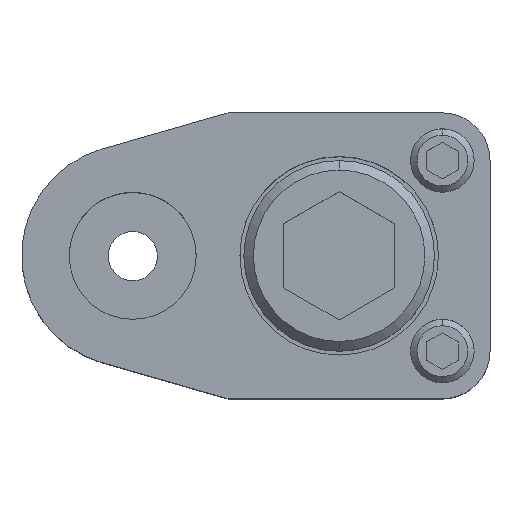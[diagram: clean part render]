
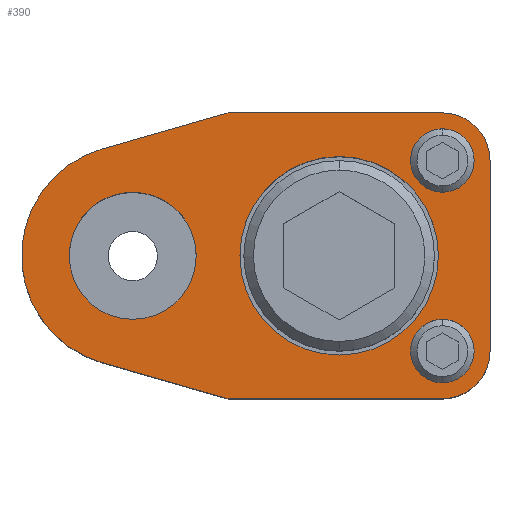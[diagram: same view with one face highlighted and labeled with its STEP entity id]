
A CAD part, top view. The second image highlights one B-rep face of the part: STEP entity #390.
In plain terms, the highlighted planar face has unit normal (0, 0, 1).
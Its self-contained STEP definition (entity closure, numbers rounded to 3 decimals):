
#192=FACE_BOUND('',#693,.T.);
#193=FACE_BOUND('',#694,.T.);
#194=FACE_BOUND('',#695,.T.);
#195=FACE_BOUND('',#696,.T.);
#196=FACE_BOUND('',#697,.T.);
#243=CIRCLE('',#2256,6.);
#246=CIRCLE('',#2262,6.);
#251=CIRCLE('',#2270,12.5);
#253=CIRCLE('',#2273,12.5);
#255=CIRCLE('',#2277,14.);
#256=CIRCLE('',#2278,4.);
#257=CIRCLE('',#2279,4.);
#258=CIRCLE('',#2280,4.);
#259=CIRCLE('',#2281,4.);
#260=CIRCLE('',#2282,8.);
#261=CIRCLE('',#2283,8.);
#390=ADVANCED_FACE('',(#192,#193,#194,#195,#196),#501,.T.);
#501=PLANE('',#2284);
#693=EDGE_LOOP('',(#973,#974,#975,#976,#977,#978,#979,#980));
#694=EDGE_LOOP('',(#981,#982));
#695=EDGE_LOOP('',(#983,#984));
#696=EDGE_LOOP('',(#985,#986));
#697=EDGE_LOOP('',(#987,#988));
#973=ORIENTED_EDGE('',*,*,#1647,.T.);
#974=ORIENTED_EDGE('',*,*,#1651,.T.);
#975=ORIENTED_EDGE('',*,*,#1654,.T.);
#976=ORIENTED_EDGE('',*,*,#1674,.T.);
#977=ORIENTED_EDGE('',*,*,#1675,.T.);
#978=ORIENTED_EDGE('',*,*,#1676,.T.);
#979=ORIENTED_EDGE('',*,*,#1657,.T.);
#980=ORIENTED_EDGE('',*,*,#1661,.T.);
#981=ORIENTED_EDGE('',*,*,#1677,.F.);
#982=ORIENTED_EDGE('',*,*,#1678,.F.);
#983=ORIENTED_EDGE('',*,*,#1679,.F.);
#984=ORIENTED_EDGE('',*,*,#1680,.F.);
#985=ORIENTED_EDGE('',*,*,#1672,.F.);
#986=ORIENTED_EDGE('',*,*,#1668,.F.);
#987=ORIENTED_EDGE('',*,*,#1681,.T.);
#988=ORIENTED_EDGE('',*,*,#1682,.T.);
#1434=VERTEX_POINT('',#3270);
#1435=VERTEX_POINT('',#3272);
#1438=VERTEX_POINT('',#3279);
#1440=VERTEX_POINT('',#3285);
#1442=VERTEX_POINT('',#3291);
#1443=VERTEX_POINT('',#3293);
#1449=VERTEX_POINT('',#3314);
#1450=VERTEX_POINT('',#3315);
#1453=VERTEX_POINT('',#3327);
#1454=VERTEX_POINT('',#3329);
#1455=VERTEX_POINT('',#3332);
#1456=VERTEX_POINT('',#3333);
#1457=VERTEX_POINT('',#3336);
#1458=VERTEX_POINT('',#3337);
#1459=VERTEX_POINT('',#3340);
#1460=VERTEX_POINT('',#3341);
#1647=EDGE_CURVE('',#1435,#1434,#1925,.T.);
#1651=EDGE_CURVE('',#1434,#1438,#243,.T.);
#1654=EDGE_CURVE('',#1438,#1440,#1930,.T.);
#1657=EDGE_CURVE('',#1443,#1442,#1933,.T.);
#1661=EDGE_CURVE('',#1442,#1435,#246,.T.);
#1668=EDGE_CURVE('',#1449,#1450,#251,.T.);
#1672=EDGE_CURVE('',#1450,#1449,#253,.T.);
#1674=EDGE_CURVE('',#1440,#1453,#1940,.T.);
#1675=EDGE_CURVE('',#1453,#1454,#255,.T.);
#1676=EDGE_CURVE('',#1454,#1443,#1941,.T.);
#1677=EDGE_CURVE('',#1455,#1456,#256,.T.);
#1678=EDGE_CURVE('',#1456,#1455,#257,.T.);
#1679=EDGE_CURVE('',#1457,#1458,#258,.T.);
#1680=EDGE_CURVE('',#1458,#1457,#259,.T.);
#1681=EDGE_CURVE('',#1459,#1460,#260,.T.);
#1682=EDGE_CURVE('',#1460,#1459,#261,.T.);
#1925=LINE('',#3271,#2091);
#1930=LINE('',#3286,#2096);
#1933=LINE('',#3292,#2099);
#1940=LINE('',#3326,#2106);
#1941=LINE('',#3330,#2107);
#2091=VECTOR('',#2604,1.);
#2096=VECTOR('',#2617,1.);
#2099=VECTOR('',#2622,1.);
#2106=VECTOR('',#2663,1.);
#2107=VECTOR('',#2666,1.);
#2256=AXIS2_PLACEMENT_3D('',#3280,#2610,#2611);
#2262=AXIS2_PLACEMENT_3D('',#3299,#2629,#2630);
#2270=AXIS2_PLACEMENT_3D('',#3313,#2647,#2648);
#2273=AXIS2_PLACEMENT_3D('',#3322,#2655,#2656);
#2277=AXIS2_PLACEMENT_3D('',#3328,#2664,#2665);
#2278=AXIS2_PLACEMENT_3D('',#3331,#2667,#2668);
#2279=AXIS2_PLACEMENT_3D('',#3334,#2669,#2670);
#2280=AXIS2_PLACEMENT_3D('',#3335,#2671,#2672);
#2281=AXIS2_PLACEMENT_3D('',#3338,#2673,#2674);
#2282=AXIS2_PLACEMENT_3D('',#3339,#2675,#2676);
#2283=AXIS2_PLACEMENT_3D('',#3342,#2677,#2678);
#2284=AXIS2_PLACEMENT_3D('',#3343,#2679,#2680);
#2604=DIRECTION('',(0.,1.,0.));
#2610=DIRECTION('',(0.,0.,1.));
#2611=DIRECTION('',(-0.707,-0.707,0.));
#2617=DIRECTION('',(-1.,0.,0.));
#2622=DIRECTION('',(1.,0.,0.));
#2629=DIRECTION('',(0.,0.,1.));
#2630=DIRECTION('',(-0.707,0.707,0.));
#2647=DIRECTION('',(0.,0.,1.));
#2648=DIRECTION('',(-1.,0.,0.));
#2655=DIRECTION('',(0.,0.,1.));
#2656=DIRECTION('',(1.,0.,0.));
#2663=DIRECTION('',(-0.961,-0.275,0.));
#2664=DIRECTION('',(0.,0.,1.));
#2665=DIRECTION('',(0.,1.,0.));
#2666=DIRECTION('',(0.961,-0.275,0.));
#2667=DIRECTION('',(0.,0.,1.));
#2668=DIRECTION('',(-1.,0.,0.));
#2669=DIRECTION('',(0.,0.,1.));
#2670=DIRECTION('',(1.,0.,0.));
#2671=DIRECTION('',(0.,0.,1.));
#2672=DIRECTION('',(-1.,0.,0.));
#2673=DIRECTION('',(0.,0.,1.));
#2674=DIRECTION('',(1.,0.,0.));
#2675=DIRECTION('',(0.,0.,-1.));
#2676=DIRECTION('',(-1.,0.,0.));
#2677=DIRECTION('',(0.,0.,-1.));
#2678=DIRECTION('',(1.,0.,0.));
#2679=DIRECTION('',(0.,0.,1.));
#2680=DIRECTION('',(0.,-1.,0.));
#3270=CARTESIAN_POINT('',(45.,12.,30.));
#3271=CARTESIAN_POINT('',(45.,-12.,30.));
#3272=CARTESIAN_POINT('',(45.,-12.,30.));
#3279=CARTESIAN_POINT('',(39.,18.,30.));
#3280=CARTESIAN_POINT('',(39.,12.,30.));
#3285=CARTESIAN_POINT('',(12.,18.,30.));
#3286=CARTESIAN_POINT('',(12.,18.,30.));
#3291=CARTESIAN_POINT('',(39.,-18.,30.));
#3292=CARTESIAN_POINT('',(12.,-18.,30.));
#3293=CARTESIAN_POINT('',(12.,-18.,30.));
#3299=CARTESIAN_POINT('',(39.,-12.,30.));
#3313=CARTESIAN_POINT('',(26.,0.,30.));
#3314=CARTESIAN_POINT('',(26.,-12.5,30.));
#3315=CARTESIAN_POINT('',(26.,12.5,30.));
#3322=CARTESIAN_POINT('',(26.,0.,30.));
#3326=CARTESIAN_POINT('',(12.,18.,30.));
#3327=CARTESIAN_POINT('',(-3.855,13.459,30.));
#3328=CARTESIAN_POINT('',(0.,0.,30.));
#3329=CARTESIAN_POINT('',(-3.855,-13.459,30.));
#3330=CARTESIAN_POINT('',(12.,-18.,30.));
#3331=CARTESIAN_POINT('',(39.,-12.,30.));
#3332=CARTESIAN_POINT('',(39.,-16.,30.));
#3333=CARTESIAN_POINT('',(39.,-8.,30.));
#3334=CARTESIAN_POINT('',(39.,-12.,30.));
#3335=CARTESIAN_POINT('',(39.,12.,30.));
#3336=CARTESIAN_POINT('',(39.,8.,30.));
#3337=CARTESIAN_POINT('',(39.,16.,30.));
#3338=CARTESIAN_POINT('',(39.,12.,30.));
#3339=CARTESIAN_POINT('',(0.,0.,30.));
#3340=CARTESIAN_POINT('',(0.,8.,30.));
#3341=CARTESIAN_POINT('',(0.,-8.,30.));
#3342=CARTESIAN_POINT('',(0.,0.,30.));
#3343=CARTESIAN_POINT('',(45.,-12.,30.));
